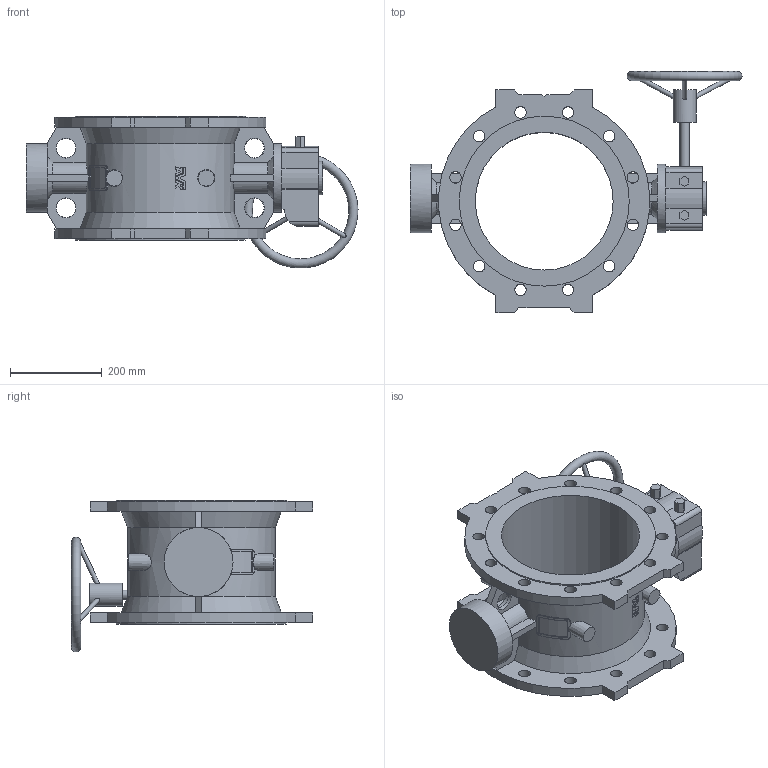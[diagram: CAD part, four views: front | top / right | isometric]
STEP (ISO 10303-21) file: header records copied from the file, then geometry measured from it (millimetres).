
FILE_DESCRIPTION (( 'STEP AP203' ), '1' );
FILE_NAME ('O_756_1_DN300_0XX00_AA0_step.step', '2016-03-04T11:34:09', ( 'Windows User' ), ( 'AVK' ), 'SwSTEP 2.0', 'SolidWorks 2012', '' );
FILE_SCHEMA (( 'CONFIG_CONTROL_DESIGN' ));
Length unit declared in the file: millimetre
Products named in the file (1): O_756_1_DN300_0XX00_AA0_step
Bounding box: 722.44 x 524.49 x 330.74 mm (x, y, z)
Volume: 11731979.3 mm3; surface area: 1252247.3 mm2
Topology: 1 solids, 1 shells, 371 faces, 1034 edges, 688 vertices
Faces by surface type: plane 190, bspline 86, cylinder 70, cone 24, torus 1
Full cylindrical faces by diameter (mm): 10 x3, 20 x1, 25 x24, 50 x1, 73 x1, 150 x2, 300 x1, 370 x2
Entity records: 17410 total; most frequent: CARTESIAN_POINT 8646, ORIENTED_EDGE 1944, DIRECTION 1418, EDGE_CURVE 972, VERTEX_POINT 674, EDGE_LOOP 504, LINE 500, VECTOR 500
